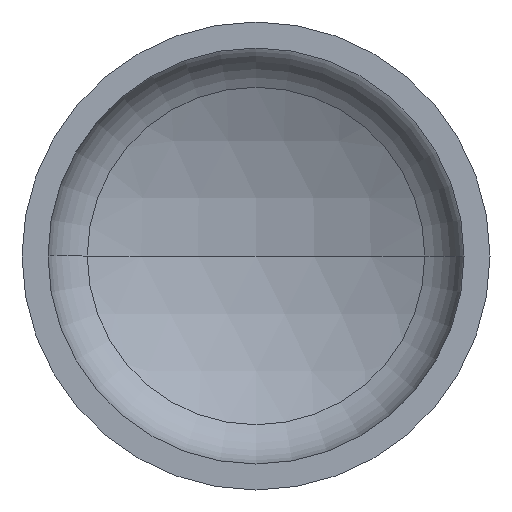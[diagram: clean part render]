
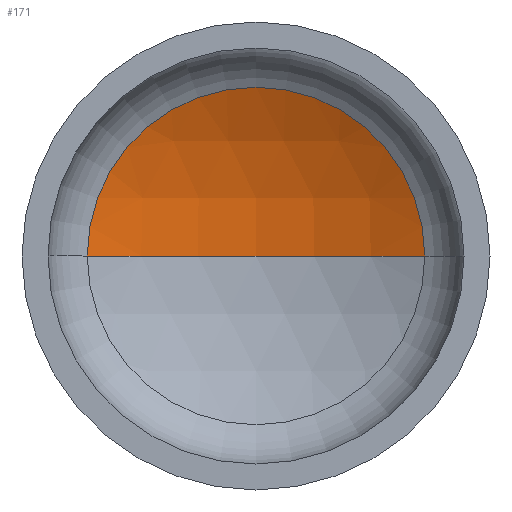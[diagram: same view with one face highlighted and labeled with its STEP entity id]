
A CAD part, front view. The second image highlights one B-rep face of the part: STEP entity #171.
In plain terms, the highlighted spherical face has radius 1440 mm.
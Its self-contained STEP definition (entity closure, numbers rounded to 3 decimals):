
#13 = AXIS2_PLACEMENT_3D ( 'NONE', #395, #236, #20 ) ;
#15 = AXIS2_PLACEMENT_3D ( 'NONE', #140, #343, #169 ) ;
#20 = DIRECTION ( 'NONE',  ( -1., 0., 0. ) ) ;
#40 = AXIS2_PLACEMENT_3D ( 'NONE', #287, #264, #234 ) ;
#77 = CARTESIAN_POINT ( 'NONE',  ( 0., 500., 0. ) ) ;
#85 = CIRCLE ( 'NONE', #13, 1440. ) ;
#97 = CARTESIAN_POINT ( 'NONE',  ( -648.927, 345.494, 0. ) ) ;
#112 = VERTEX_POINT ( 'NONE', #97 ) ;
#121 = DIRECTION ( 'NONE',  ( 0., 0., 1. ) ) ;
#140 = CARTESIAN_POINT ( 'NONE',  ( 0., 345.494, 0. ) ) ;
#164 = CIRCLE ( 'NONE', #15, 648.927 ) ;
#169 = DIRECTION ( 'NONE',  ( 1., 0., 0. ) ) ;
#171 = ADVANCED_FACE ( 'NONE', ( #338 ), #278, .F. ) ;
#216 = CIRCLE ( 'NONE', #352, 1440. ) ;
#234 = DIRECTION ( 'NONE',  ( -1., 0., 0. ) ) ;
#236 = DIRECTION ( 'NONE',  ( 0., 0., -1. ) ) ;
#253 = ORIENTED_EDGE ( 'NONE', *, *, #318, .T. ) ;
#264 = DIRECTION ( 'NONE',  ( 0., 0., -1. ) ) ;
#271 = CARTESIAN_POINT ( 'NONE',  ( 648.927, 345.494, 0. ) ) ;
#278 = SPHERICAL_SURFACE ( 'NONE', #40, 1440. ) ;
#287 = CARTESIAN_POINT ( 'NONE',  ( 0., -940., 0. ) ) ;
#298 = CARTESIAN_POINT ( 'NONE',  ( 0., -940., 0. ) ) ;
#309 = EDGE_CURVE ( 'NONE', #361, #112, #164, .T. ) ;
#318 = EDGE_CURVE ( 'NONE', #322, #361, #85, .T. ) ;
#322 = VERTEX_POINT ( 'NONE', #77 ) ;
#325 = DIRECTION ( 'NONE',  ( 1., 0., 0. ) ) ;
#338 = FACE_OUTER_BOUND ( 'NONE', #375, .T. ) ;
#343 = DIRECTION ( 'NONE',  ( 0., -1., 0. ) ) ;
#352 = AXIS2_PLACEMENT_3D ( 'NONE', #298, #121, #325 ) ;
#358 = ORIENTED_EDGE ( 'NONE', *, *, #377, .F. ) ;
#361 = VERTEX_POINT ( 'NONE', #271 ) ;
#375 = EDGE_LOOP ( 'NONE', ( #358, #253, #389 ) ) ;
#377 = EDGE_CURVE ( 'NONE', #322, #112, #216, .T. ) ;
#389 = ORIENTED_EDGE ( 'NONE', *, *, #309, .T. ) ;
#395 = CARTESIAN_POINT ( 'NONE',  ( 0., -940., 0. ) ) ;
